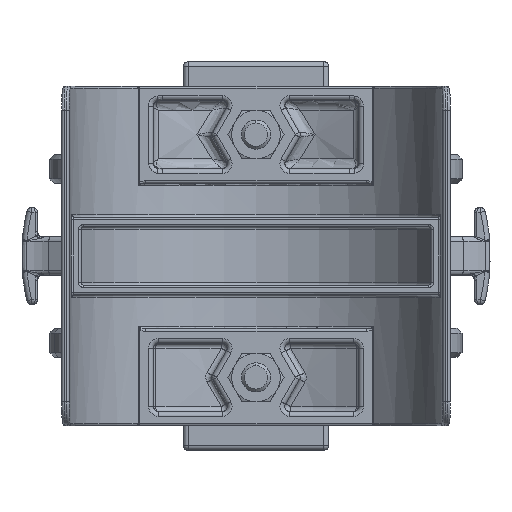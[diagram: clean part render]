
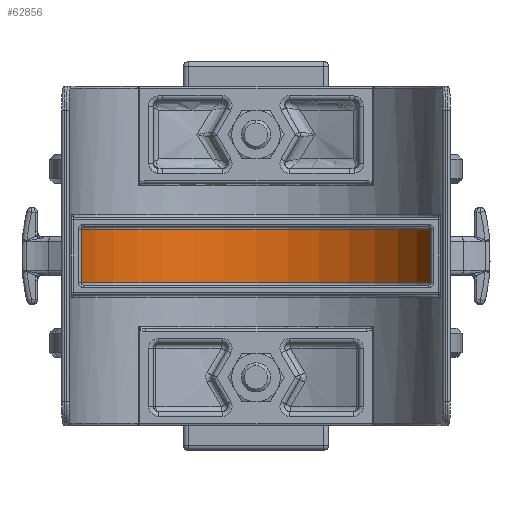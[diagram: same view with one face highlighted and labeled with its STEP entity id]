
A CAD part, front view. The second image highlights one B-rep face of the part: STEP entity #62856.
In plain terms, the highlighted cylindrical face has radius 38.5 mm (diameter 77 mm), a partial arc.
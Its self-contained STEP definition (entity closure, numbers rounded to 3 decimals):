
#3570 = ORIENTED_EDGE ( 'NONE', *, *, #48323, .T. ) ;
#3572 = ORIENTED_EDGE ( 'NONE', *, *, #48308, .T. ) ;
#3573 = ORIENTED_EDGE ( 'NONE', *, *, #48299, .T. ) ;
#3575 = ORIENTED_EDGE ( 'NONE', *, *, #48297, .T. ) ;
#8867 = VERTEX_POINT ( 'NONE', #16311 ) ;
#8993 = VERTEX_POINT ( 'NONE', #16499 ) ;
#8994 = VERTEX_POINT ( 'NONE', #16505 ) ;
#13170 = CARTESIAN_POINT ( 'NONE',  ( 35.997, 13.655, -5.5 ) ) ;
#14212 = DIRECTION ( 'NONE',  ( -1., 0., 0. ) ) ;
#14213 = CARTESIAN_POINT ( 'NONE',  ( 0., 0., 35. ) ) ;
#14214 = DIRECTION ( 'NONE',  ( 0., 0., -1. ) ) ;
#16311 = CARTESIAN_POINT ( 'NONE',  ( -35.997, 13.655, -5.5 ) ) ;
#16499 = CARTESIAN_POINT ( 'NONE',  ( 35.997, 13.655, 5.5 ) ) ;
#16505 = CARTESIAN_POINT ( 'NONE',  ( -35.997, 13.655, 5.5 ) ) ;
#27195 = EDGE_LOOP ( 'NONE', ( #3570, #3572, #3573, #3575 ) ) ;
#37033 = AXIS2_PLACEMENT_3D ( 'NONE', #59312, #59313, #59314 ) ;
#37190 = AXIS2_PLACEMENT_3D ( 'NONE', #59289, #59290, #59291 ) ;
#42170 = LINE ( 'NONE', #59288, #42175 ) ;
#42171 = CIRCLE ( 'NONE', #37190, 38.5 ) ;
#42175 = VECTOR ( 'NONE', #59283, 1000. ) ;
#42178 = CIRCLE ( 'NONE', #37033, 38.5 ) ;
#42183 = LINE ( 'NONE', #59324, #42185 ) ;
#42185 = VECTOR ( 'NONE', #59325, 1000. ) ;
#48297 = EDGE_CURVE ( 'NONE', #8867, #55596, #42171, .T. ) ;
#48299 = EDGE_CURVE ( 'NONE', #8994, #8867, #42170, .T. ) ;
#48308 = EDGE_CURVE ( 'NONE', #8993, #8994, #42178, .T. ) ;
#48323 = EDGE_CURVE ( 'NONE', #55596, #8993, #42183, .T. ) ;
#49822 = AXIS2_PLACEMENT_3D ( 'NONE', #14213, #14214, #14212 ) ;
#53288 = FACE_OUTER_BOUND ( 'NONE', #27195, .T. ) ;
#53296 = CYLINDRICAL_SURFACE ( 'NONE', #49822, 38.5 ) ;
#55596 = VERTEX_POINT ( 'NONE', #13170 ) ;
#59283 = DIRECTION ( 'NONE',  ( 0., 0., -1. ) ) ;
#59288 = CARTESIAN_POINT ( 'NONE',  ( -35.997, 13.655, 35. ) ) ;
#59289 = CARTESIAN_POINT ( 'NONE',  ( 0., 0., -5.5 ) ) ;
#59290 = DIRECTION ( 'NONE',  ( 0., 0., -1. ) ) ;
#59291 = DIRECTION ( 'NONE',  ( -1., 0., 0. ) ) ;
#59312 = CARTESIAN_POINT ( 'NONE',  ( 0., 0., 5.5 ) ) ;
#59313 = DIRECTION ( 'NONE',  ( 0., 0., 1. ) ) ;
#59314 = DIRECTION ( 'NONE',  ( 1., 0., 0. ) ) ;
#59324 = CARTESIAN_POINT ( 'NONE',  ( 35.997, 13.655, 35. ) ) ;
#59325 = DIRECTION ( 'NONE',  ( 0., 0., 1. ) ) ;
#62856 = ADVANCED_FACE ( 'NONE', ( #53288 ), #53296, .F. ) ;
